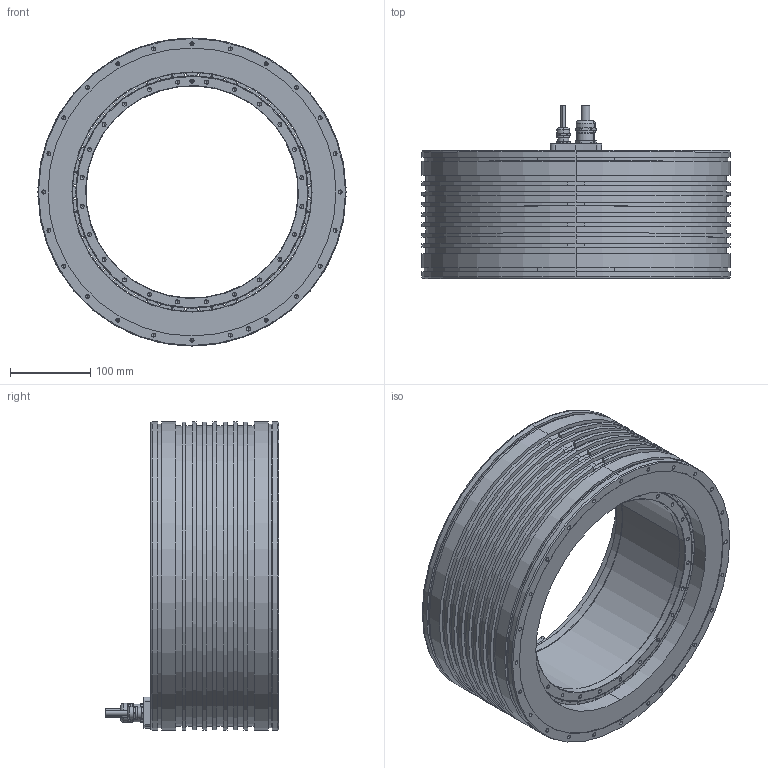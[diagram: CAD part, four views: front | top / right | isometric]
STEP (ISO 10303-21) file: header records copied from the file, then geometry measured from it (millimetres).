
FILE_DESCRIPTION (( 'STEP AP214' ), '1' );
FILE_NAME ('TORQUE KIT QMT HA 385-160-I-AX.STEP', '2025-09-05T06:58:42', ( '' ), ( '' ), 'SwSTEP 2.0', 'SolidWorks 2023', '' );
FILE_SCHEMA (( 'AUTOMOTIVE_DESIGN' ));
Length unit declared in the file: millimetre
Products named in the file (23): Stator; Magnet; Cable; Housing-BO; Cable Gland; Cable Connection; Resin; Rotor Ring; Rotor; Rotor_Glued; Cable Clamp; Cooling Ring; Screw; TORQUE KIT QMT HA 385-160-I-AX; Housing
Assembly tree (132 placements, depth 6):
  TORQUE KIT QMT HA 385-160-I-AX
    Stator
      Stator
        Housing
          Housing-BO
            Cooling Ring
        Cable Connection
          Cable Connection
          Cable
          Cable
        Resin
      Cable Clamp
        Cable Clamp
        Cable Gland
        Cable Gland
      Screw  x3
    Rotor
      Rotor_Glued
        Rotor Ring
        Magnet  x28
        Magnet  x28
        Magnet  x28
        Magnet  x28
Bounding box: 385 x 217.1 x 385 mm (x, y, z)
Volume: 8498094.9 mm3; surface area: 1453359.6 mm2
Topology: 124 solids, 124 shells, 4803 faces, 11078 edges, 6038 vertices
Faces by surface type: cylinder 1936, sphere 1120, plane 839, torus 476, cone 310, bspline 122
Entity records: 57241 total; most frequent: CARTESIAN_POINT 12140, DIRECTION 7016, ORIENTED_EDGE 6540, EDGE_CURVE 3270, AXIS2_PLACEMENT_3D 2696, VERTEX_POINT 2068, VECTOR 1624, LINE 1624
